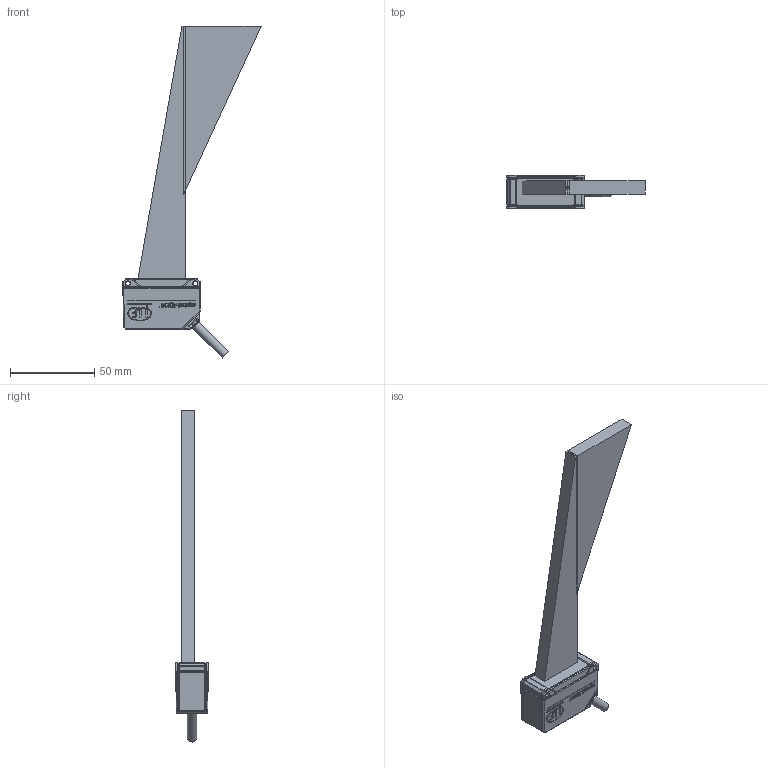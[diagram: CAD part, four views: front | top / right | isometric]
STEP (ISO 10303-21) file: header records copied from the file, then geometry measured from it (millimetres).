
FILE_DESCRIPTION (( 'STEP AP214' ), '1' );
FILE_NAME ('ILD1320-1420_MB100.STEP', '2017-02-09T08:52:02', ( '' ), ( '' ), 'SwSTEP 2.0', 'SolidWorks 2016', '' );
FILE_SCHEMA (( 'AUTOMOTIVE_DESIGN' ));
Length unit declared in the file: millimetre
Products named in the file (5): reflexion_free_space_MB100_000; laserbeam_tolerance_000; ILD1320-1420_MB100; ILD1320-1420_000; optical_free_space_MB100_000
Assembly tree (4 placements, depth 2):
  ILD1320-1420_MB100
    ILD1320-1420_000
    laserbeam_tolerance_000
    optical_free_space_MB100_000
    reflexion_free_space_MB100_000
Bounding box: 81.99 x 20 x 196.89 mm (x, y, z)
Volume: 61779.5 mm3; surface area: 22869.7 mm2
Topology: 6 solids, 8 shells, 1767 faces, 4426 edges, 2696 vertices
Faces by surface type: bspline 840, plane 567, cylinder 348, cone 12
Full cylindrical faces by diameter (mm): 2.7 x2, 3 x2, 3.3 x1, 5.4 x1
Entity records: 66604 total; most frequent: CARTESIAN_POINT 31102, ORIENTED_EDGE 8684, DIRECTION 4875, EDGE_CURVE 4342, VERTEX_POINT 2682, LINE 2001, VECTOR 2001, EDGE_LOOP 1862
